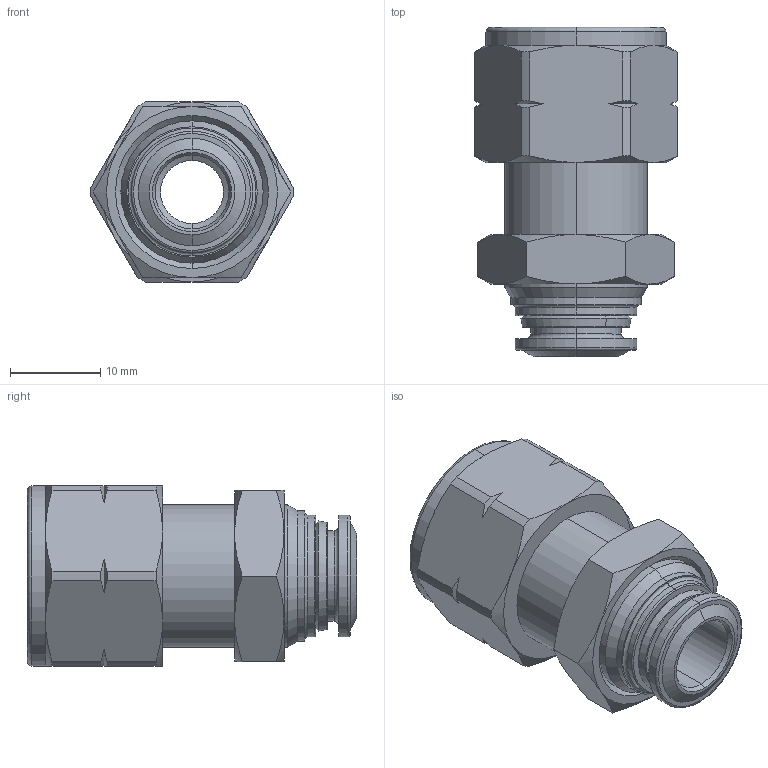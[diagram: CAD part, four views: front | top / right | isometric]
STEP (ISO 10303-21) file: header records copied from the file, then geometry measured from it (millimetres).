
FILE_DESCRIPTION (( 'STEP AP214' ), '1' );
FILE_NAME ('8905500011.STEP', '2019-12-04T13:44:01', ( 'admin' ), ( '' ), 'SwSTEP 2.0', 'SolidWorks 2016', '' );
FILE_SCHEMA (( 'AUTOMOTIVE_DESIGN' ));
Length unit declared in the file: millimetre
Products named in the file (1): 8905500011
Bounding box: 22.5 x 36.55 x 20 mm (x, y, z)
Volume: 6030 mm3; surface area: 4161.7 mm2
Topology: 1 solids, 1 shells, 125 faces, 282 edges, 168 vertices
Faces by surface type: cone 58, cylinder 32, plane 23, torus 12
Entity records: 5111 total; most frequent: CARTESIAN_POINT 944, DIRECTION 600, ORIENTED_EDGE 564, EDGE_CURVE 282, AXIS2_PLACEMENT_3D 264, VERTEX_POINT 168, CIRCLE 138, EDGE_LOOP 136
